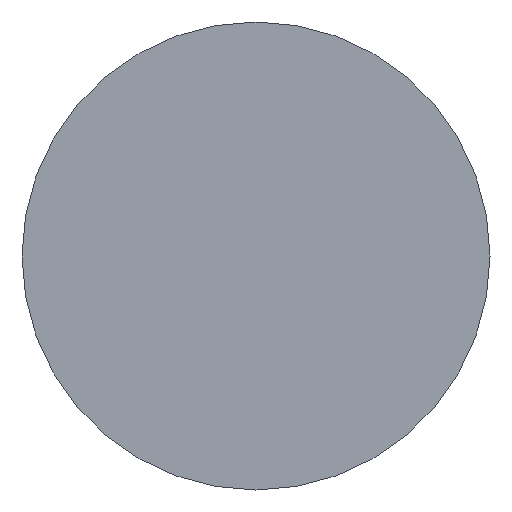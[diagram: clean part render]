
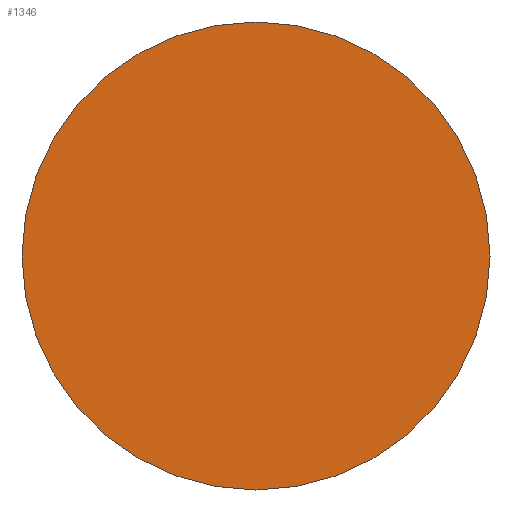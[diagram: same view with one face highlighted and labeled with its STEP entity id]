
A CAD part, front view. The second image highlights one B-rep face of the part: STEP entity #1346.
In plain terms, the highlighted planar face has unit normal (0, -1, 0).
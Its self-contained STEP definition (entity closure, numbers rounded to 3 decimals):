
#272 = CIRCLE ( 'NONE', #1335, 34. ) ;
#457 = EDGE_CURVE ( 'NONE', #3537, #502, #3561, .T. ) ;
#466 = EDGE_LOOP ( 'NONE', ( #3445, #2121 ) ) ;
#502 = VERTEX_POINT ( 'NONE', #3986 ) ;
#802 = AXIS2_PLACEMENT_3D ( 'NONE', #3556, #2007, #1706 ) ;
#1059 = FACE_OUTER_BOUND ( 'NONE', #466, .T. ) ;
#1143 = DIRECTION ( 'NONE',  ( 0., -1., 0. ) ) ;
#1335 = AXIS2_PLACEMENT_3D ( 'NONE', #3672, #3716, #2794 ) ;
#1346 = ADVANCED_FACE ( 'NONE', ( #1059 ), #3470, .T. ) ;
#1483 = EDGE_CURVE ( 'NONE', #502, #3537, #272, .T. ) ;
#1706 = DIRECTION ( 'NONE',  ( 1., 0., 0. ) ) ;
#1762 = CARTESIAN_POINT ( 'NONE',  ( 0., -25., 0. ) ) ;
#2007 = DIRECTION ( 'NONE',  ( 0., -1., 0. ) ) ;
#2121 = ORIENTED_EDGE ( 'NONE', *, *, #1483, .T. ) ;
#2392 = DIRECTION ( 'NONE',  ( 1., 0., 0. ) ) ;
#2794 = DIRECTION ( 'NONE',  ( 1., 0., 0. ) ) ;
#2910 = AXIS2_PLACEMENT_3D ( 'NONE', #1762, #1143, #2392 ) ;
#3445 = ORIENTED_EDGE ( 'NONE', *, *, #457, .T. ) ;
#3470 = PLANE ( 'NONE',  #802 ) ;
#3537 = VERTEX_POINT ( 'NONE', #4047 ) ;
#3556 = CARTESIAN_POINT ( 'NONE',  ( 34., -25., 0. ) ) ;
#3561 = CIRCLE ( 'NONE', #2910, 34. ) ;
#3672 = CARTESIAN_POINT ( 'NONE',  ( 0., -25., 0. ) ) ;
#3716 = DIRECTION ( 'NONE',  ( 0., -1., 0. ) ) ;
#3986 = CARTESIAN_POINT ( 'NONE',  ( -34., -25., 0. ) ) ;
#4047 = CARTESIAN_POINT ( 'NONE',  ( 34., -25., 0. ) ) ;
